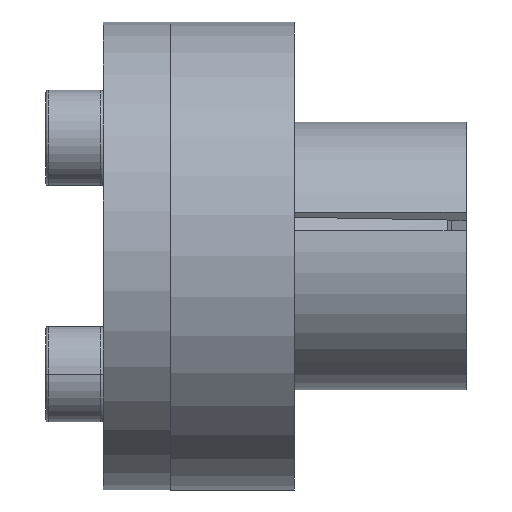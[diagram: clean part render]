
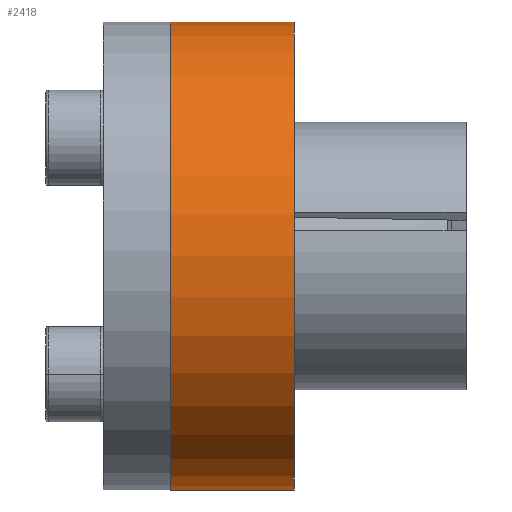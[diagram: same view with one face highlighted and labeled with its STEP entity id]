
A CAD part, front view. The second image highlights one B-rep face of the part: STEP entity #2418.
In plain terms, the highlighted cylindrical face has radius 24.5 mm (diameter 49 mm), a partial arc.
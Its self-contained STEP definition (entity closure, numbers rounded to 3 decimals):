
#183 = CARTESIAN_POINT ( 'NONE',  ( 1., 0., 0. ) ) ;
#255 = CARTESIAN_POINT ( 'NONE',  ( 1., 0., 24.5 ) ) ;
#262 = CARTESIAN_POINT ( 'NONE',  ( -19., 0., 0. ) ) ;
#309 = CARTESIAN_POINT ( 'NONE',  ( -12., 0., -24.5 ) ) ;
#719 = DIRECTION ( 'NONE',  ( -1., 0., 0. ) ) ;
#725 = VERTEX_POINT ( 'NONE', #255 ) ;
#730 = CARTESIAN_POINT ( 'NONE',  ( -19., 0., 24.5 ) ) ;
#758 = ORIENTED_EDGE ( 'NONE', *, *, #3915, .F. ) ;
#1020 = EDGE_CURVE ( 'NONE', #2831, #2419, #2951, .T. ) ;
#1074 = CARTESIAN_POINT ( 'NONE',  ( 1., 0., -24.5 ) ) ;
#1547 = DIRECTION ( 'NONE',  ( 0., 0., 1. ) ) ;
#1728 = EDGE_CURVE ( 'NONE', #3905, #725, #2120, .T. ) ;
#1794 = CARTESIAN_POINT ( 'NONE',  ( -12., 0., 0. ) ) ;
#2026 = DIRECTION ( 'NONE',  ( -1., 0., 0. ) ) ;
#2113 = EDGE_CURVE ( 'NONE', #725, #2419, #3024, .T. ) ;
#2120 = CIRCLE ( 'NONE', #2950, 24.5 ) ;
#2164 = AXIS2_PLACEMENT_3D ( 'NONE', #262, #3510, #2447 ) ;
#2224 = VECTOR ( 'NONE', #719, 1000. ) ;
#2418 = ADVANCED_FACE ( 'NONE', ( #3793 ), #3686, .T. ) ;
#2419 = VERTEX_POINT ( 'NONE', #3177 ) ;
#2447 = DIRECTION ( 'NONE',  ( 0., 0., 1. ) ) ;
#2558 = VECTOR ( 'NONE', #2026, 1000. ) ;
#2574 = ORIENTED_EDGE ( 'NONE', *, *, #1020, .F. ) ;
#2650 = LINE ( 'NONE', #2965, #2558 ) ;
#2696 = ORIENTED_EDGE ( 'NONE', *, *, #1728, .T. ) ;
#2768 = AXIS2_PLACEMENT_3D ( 'NONE', #1794, #3494, #1547 ) ;
#2831 = VERTEX_POINT ( 'NONE', #309 ) ;
#2950 = AXIS2_PLACEMENT_3D ( 'NONE', #183, #3481, #3122 ) ;
#2951 = CIRCLE ( 'NONE', #2768, 24.5 ) ;
#2965 = CARTESIAN_POINT ( 'NONE',  ( -19., 0., -24.5 ) ) ;
#3024 = LINE ( 'NONE', #730, #2224 ) ;
#3122 = DIRECTION ( 'NONE',  ( 0., 0., 1. ) ) ;
#3177 = CARTESIAN_POINT ( 'NONE',  ( -12., 0., 24.5 ) ) ;
#3280 = ORIENTED_EDGE ( 'NONE', *, *, #2113, .T. ) ;
#3481 = DIRECTION ( 'NONE',  ( -1., 0., 0. ) ) ;
#3487 = EDGE_LOOP ( 'NONE', ( #758, #2696, #3280, #2574 ) ) ;
#3494 = DIRECTION ( 'NONE',  ( -1., 0., 0. ) ) ;
#3510 = DIRECTION ( 'NONE',  ( -1., 0., 0. ) ) ;
#3686 = CYLINDRICAL_SURFACE ( 'NONE', #2164, 24.5 ) ;
#3793 = FACE_OUTER_BOUND ( 'NONE', #3487, .T. ) ;
#3905 = VERTEX_POINT ( 'NONE', #1074 ) ;
#3915 = EDGE_CURVE ( 'NONE', #3905, #2831, #2650, .T. ) ;
